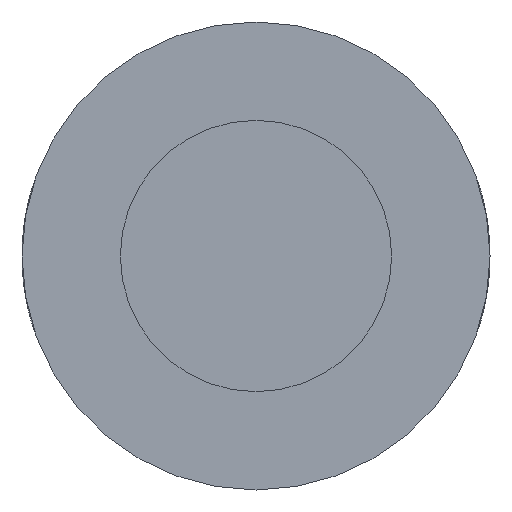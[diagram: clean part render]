
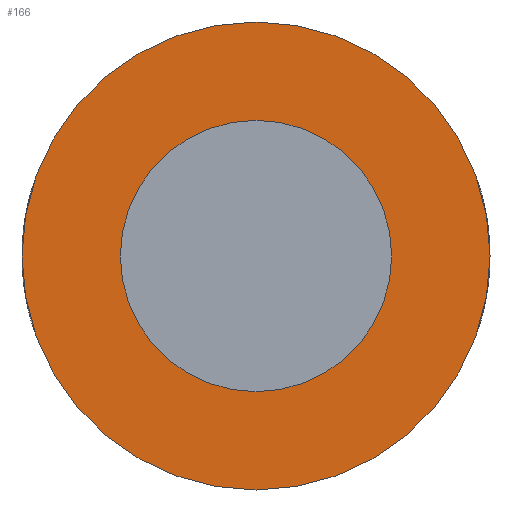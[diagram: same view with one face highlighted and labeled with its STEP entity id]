
A CAD part, front view. The second image highlights one B-rep face of the part: STEP entity #166.
In plain terms, the highlighted planar face has unit normal (0, -1, 0).
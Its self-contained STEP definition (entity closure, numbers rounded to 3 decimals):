
#16=FACE_BOUND('',#46,.T.);
#21=CIRCLE('',#200,3.45);
#22=CIRCLE('',#201,2.);
#30=PLANE('',#199);
#35=FACE_OUTER_BOUND('',#45,.T.);
#45=EDGE_LOOP('',(#118));
#46=EDGE_LOOP('',(#119));
#81=VERTEX_POINT('',#346);
#82=VERTEX_POINT('',#348);
#97=EDGE_CURVE('',#81,#81,#21,.T.);
#98=EDGE_CURVE('',#82,#82,#22,.T.);
#118=ORIENTED_EDGE('',*,*,#97,.F.);
#119=ORIENTED_EDGE('',*,*,#98,.T.);
#166=ADVANCED_FACE('',(#35,#16),#30,.T.);
#199=AXIS2_PLACEMENT_3D('',#345,#222,#223);
#200=AXIS2_PLACEMENT_3D('',#347,#224,#225);
#201=AXIS2_PLACEMENT_3D('',#349,#226,#227);
#222=DIRECTION('center_axis',(0.,-1.,0.));
#223=DIRECTION('ref_axis',(0.,0.,-1.));
#224=DIRECTION('center_axis',(0.,1.,0.));
#225=DIRECTION('ref_axis',(1.,0.,0.));
#226=DIRECTION('center_axis',(0.,1.,0.));
#227=DIRECTION('ref_axis',(1.,0.,0.));
#345=CARTESIAN_POINT('Origin',(3.45,4.5,0.));
#346=CARTESIAN_POINT('',(-3.45,4.5,0.));
#347=CARTESIAN_POINT('Origin',(0.,4.5,0.));
#348=CARTESIAN_POINT('',(-2.,4.5,0.));
#349=CARTESIAN_POINT('Origin',(0.,4.5,0.));
